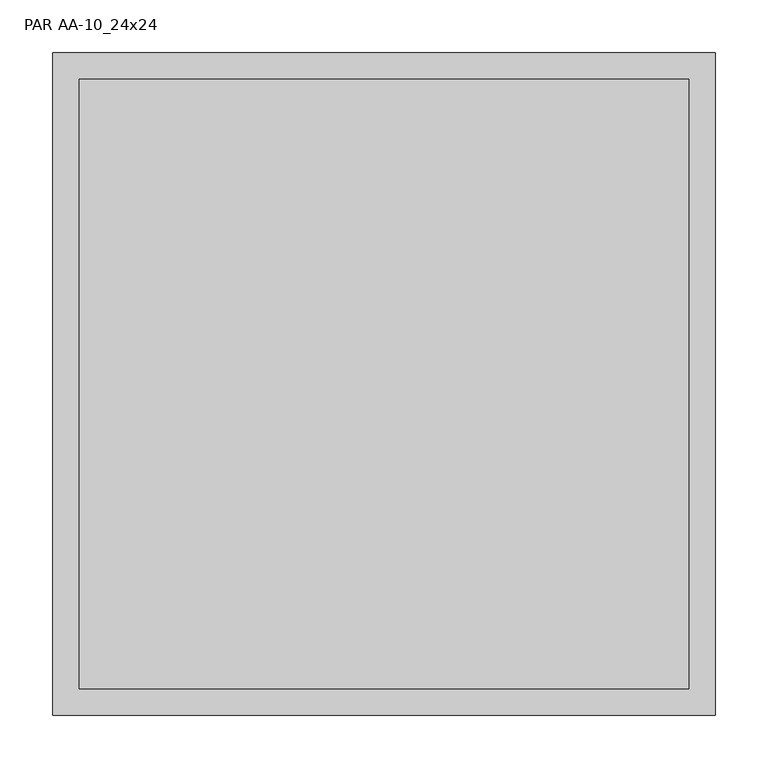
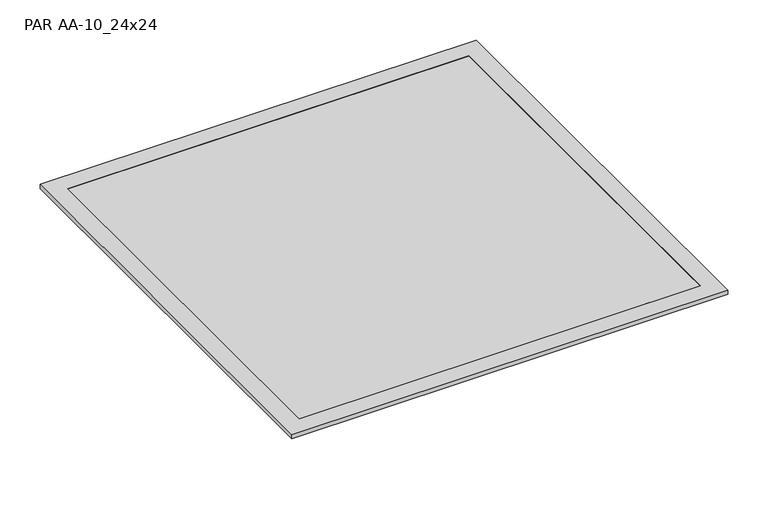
"""IFC4 building model written with IfcOpenShell, lengths in millimetres: air terminal geometry, Titus-Round_Neck_Exhaust_Diffuser-PAR_Surface_Mount : PAR AA-10_24x24."""

from ifc_helpers import new_model, si_unit, point, frame, origin, origin_2d, place, context, project, spatial, polyline, circle_curve, trimmed, segment, composite_curve, outline, extrude, faceted_brep, source, transform, mapped, element, save


def par_aa_10_24x24_32668ffe(model_context):
    return source(origin(), model_context, "Body", "SolidModel", [
        faceted_brep([(-314.325, 314.325, 0.0), (-314.325, 314.325, 6.35), (314.325, 314.325, 6.35), (314.325, 314.325, 0.0), (-288.925, 288.925, 6.35), (-288.925, 288.925, 5.55625), (288.925, 288.925, 5.55625), (288.925, 288.925, 6.35), (314.325, -314.325, 6.35), (314.325, -314.325, 0.0), (288.925, -288.925, 5.55625), (288.925, -288.925, 6.35), (-314.325, -314.325, 6.35), (-314.325, -314.325, 0.0), (-288.925, -288.925, 5.55625), (-288.925, -288.925, 6.35), (-313.53125, 313.53125, 0.0), (-313.53125, -313.53125, 0.0), (313.53125, -313.53125, 0.0), (313.53125, 313.53125, 0.0), (-313.53125, 313.53125, 5.55625), (313.53125, 313.53125, 5.55625), (313.53125, -313.53125, 5.55625), (-313.53125, -313.53125, 5.55625)], [[[0, 1, 2, 3]], [[4, 5, 6, 7]], [[3, 2, 8, 9]], [[7, 6, 10, 11]], [[9, 8, 12, 13]], [[11, 10, 14, 15]], [[1, 12, 8, 2], [7, 11, 15, 4]], [[13, 12, 1, 0]], [[3, 9, 13, 0], [16, 17, 18, 19]], [[15, 14, 5, 4]], [[20, 16, 19, 21]], [[21, 19, 18, 22]], [[22, 18, 17, 23]], [[23, 17, 16, 20]], [[21, 22, 23, 20], [5, 14, 10, 6]]]),
        faceted_brep([(228.6, 228.6, -31.75), (228.6, -228.6, -31.75), (-228.6, -228.6, -31.75), (-228.6, 228.6, -31.75), (-254.0, 254.0, -19.05), (254.0, 254.0, -19.05), (-254.0, -254.0, -19.05), (254.0, -254.0, -19.05), (288.925, 288.925, -19.05), (288.925, -288.925, -19.05), (-288.925, -288.925, -19.05), (-288.925, 288.925, -19.05), (-288.925, 288.925, -1.5875), (-288.925, 288.925, 4.7625), (288.925, 288.925, 4.7625), (288.925, 288.925, -1.5875), (-288.925, -288.925, -1.5875), (-288.925, -288.925, 4.7625), (288.925, -288.925, -1.5875), (288.925, -288.925, 4.7625), (301.625, 301.625, 5.55625), (-301.625, 301.625, 5.55625), (-301.625, -301.625, 5.55625), (301.625, -301.625, 5.55625), (301.625, 301.625, 4.7625), (301.625, -301.625, 4.7625), (-301.625, -301.625, 4.7625), (-301.625, 301.625, 4.7625)], [[[0, 1, 2, 3]], [[0, 3, 4, 5]], [[3, 2, 6, 4]], [[2, 1, 7, 6]], [[1, 0, 5, 7]], [[8, 9, 10, 11], [5, 4, 6, 7]], [[8, 11, 12, 13, 14, 15]], [[11, 10, 16, 17, 13, 12]], [[10, 9, 18, 19, 17, 16]], [[9, 8, 15, 14, 19, 18]], [[20, 21, 22, 23]], [[24, 25, 26, 27], [14, 13, 17, 19]], [[21, 20, 24, 27]], [[22, 21, 27, 26]], [[23, 22, 26, 25]], [[20, 23, 25, 24]]]),
        extrude(outline(polyline([(288.925, 288.925), (288.925, -288.925), (-288.925, -288.925), (-288.925, 288.925), (288.925, 288.925)])), frame((0.0, 0.0, 5.55625), z_axis=(0.0, 0.0, 1.0), x_axis=(1.0, 0.0, 0.0)), (0.0, 0.0, 1.0), 0.79375),
        extrude(outline(composite_curve([segment(trimmed(circle_curve(origin_2d(), 125.4125), [point((-125.4125, 0.0))], [point((125.4125, 0.0))], False, "CARTESIAN"), True, "CONTINUOUS"), segment(trimmed(circle_curve(origin_2d(), 125.4125), [point((125.4125, 0.0))], [point((-125.4125, 0.0))], False, "CARTESIAN"), True, "CONTINUOUS")], self_intersect=False), holes=[composite_curve([segment(trimmed(circle_curve(origin_2d(), 123.825), [point((-123.825, 0.0))], [point((123.825, 0.0))], True, "CARTESIAN"), True, "CONTINUOUS"), segment(trimmed(circle_curve(origin_2d(), 123.825), [point((123.825, 0.0))], [point((-123.825, 0.0))], True, "CARTESIAN"), True, "CONTINUOUS")], self_intersect=False)]), frame((0.0, 0.0, -69.85), z_axis=(0.0, 0.0, 1.0), x_axis=(1.0, 0.0, 0.0)), (0.0, 0.0, 1.0), 38.1),
    ])


if __name__ == "__main__":
    model = new_model("IFC4")
    model_context = context("Model", 3, world=origin())
    ifc_project = project(units=[si_unit("LENGTHUNIT", "METRE", prefix="MILLI")], contexts=[model_context])
    site = spatial("IfcSite", under=ifc_project)
    building = spatial("IfcBuilding", under=site)
    placement = place(None, origin())
    par_aa_10_24x24_shape = par_aa_10_24x24_32668ffe(model_context)
    element("IfcAirTerminal", 1, ObjectType="Titus-Round_Neck_Exhaust_Diffuser-PAR_Surface_Mount : PAR AA-10_24x24", at=placement, inside=building, context=model_context, shape_type="MappedRepresentation", body=[
        mapped(par_aa_10_24x24_shape, transform((0.0, 0.0, 0.0), x_axis=(1.0, 0.0, 0.0), y_axis=(0.0, 1.0, 0.0), z_axis=(0.0, 0.0, 1.0))),
    ])
    save(model, "model.ifc")
